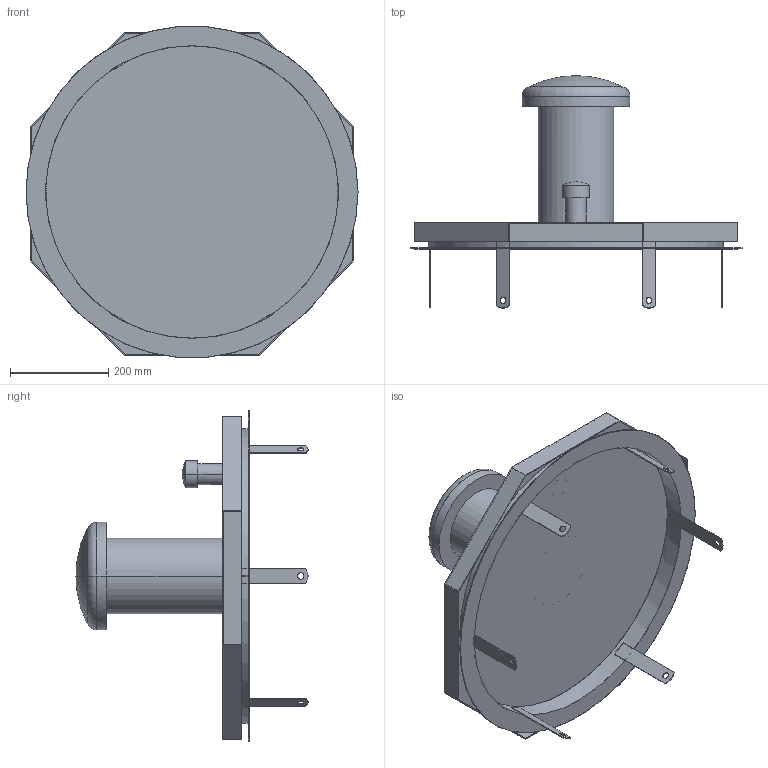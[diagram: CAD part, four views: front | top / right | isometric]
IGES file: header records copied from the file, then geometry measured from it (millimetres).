
Start section:  PTC IGES file: 017_000107.igs
Global section: file name: 017_000107.igs; native system: Creo Parametric by Parametric Technology Corporation; preprocessor: 2017170; author: set; organization: Unknown; date: 20180906.115024; units: millimetre
Bounding box: 675 x 472 x 673.24 mm (x, y, z)
Surface area: 1426947.1 mm2 (no closed solid volume)
Topology: 0 solids, 0 shells, 92 faces, 488 edges, 484 vertices
Faces by surface type: bspline 54, revolution 38
